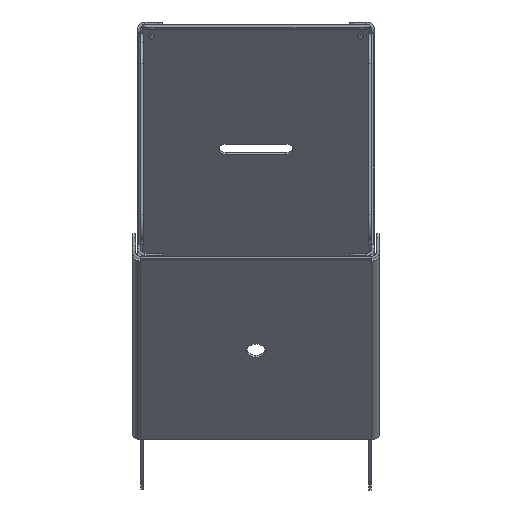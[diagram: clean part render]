
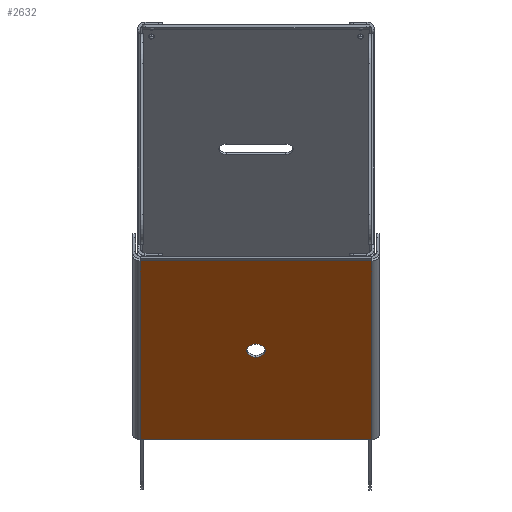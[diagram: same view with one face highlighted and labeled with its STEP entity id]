
A CAD part, left-side view. The second image highlights one B-rep face of the part: STEP entity #2632.
In plain terms, the highlighted planar face has unit normal (-0.707, 0, -0.707) as drawn and (-0.707, -0.707, 0) by its records, which use the part's own axes.
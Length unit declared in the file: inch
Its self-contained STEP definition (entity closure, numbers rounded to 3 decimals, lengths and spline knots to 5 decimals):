
#2334 = EDGE_CURVE ( 'NONE', #2443, #2335, #5176, .T. ) ;
#2335 = VERTEX_POINT ( 'NONE', #5223 ) ;
#2416 = EDGE_CURVE ( 'NONE', #2713, #2417, #5399, .T. ) ;
#2417 = VERTEX_POINT ( 'NONE', #5380 ) ;
#2418 = ORIENTED_EDGE ( 'NONE', *, *, #2582, .F. ) ;
#2419 = VERTEX_POINT ( 'NONE', #5373 ) ;
#2443 = VERTEX_POINT ( 'NONE', #5382 ) ;
#2448 = VERTEX_POINT ( 'NONE', #5374 ) ;
#2456 = EDGE_CURVE ( 'NONE', #2504, #2448, #5404, .T. ) ;
#2484 = VERTEX_POINT ( 'NONE', #5366 ) ;
#2504 = VERTEX_POINT ( 'NONE', #5520 ) ;
#2543 = EDGE_LOOP ( 'NONE', ( #2603, #2669, #2418, #2583, #2585, #2586 ) ) ;
#2582 = EDGE_CURVE ( 'NONE', #2419, #2417, #5681, .T. ) ;
#2583 = ORIENTED_EDGE ( 'NONE', *, *, #2584, .T. ) ;
#2584 = EDGE_CURVE ( 'NONE', #2419, #2448, #5640, .T. ) ;
#2585 = ORIENTED_EDGE ( 'NONE', *, *, #2456, .F. ) ;
#2586 = ORIENTED_EDGE ( 'NONE', *, *, #2587, .T. ) ;
#2587 = EDGE_CURVE ( 'NONE', #2504, #2484, #5664, .T. ) ;
#2601 = EDGE_CURVE ( 'NONE', #2484, #2713, #5615, .T. ) ;
#2603 = ORIENTED_EDGE ( 'NONE', *, *, #2601, .T. ) ;
#2632 = ADVANCED_FACE ( 'NONE', ( #5711, #5705 ), #5704, .F. ) ;
#2667 = ORIENTED_EDGE ( 'NONE', *, *, #2683, .F. ) ;
#2668 = ORIENTED_EDGE ( 'NONE', *, *, #2334, .F. ) ;
#2669 = ORIENTED_EDGE ( 'NONE', *, *, #2416, .T. ) ;
#2683 = EDGE_CURVE ( 'NONE', #2335, #2443, #5769, .T. ) ;
#2712 = EDGE_LOOP ( 'NONE', ( #2667, #2668 ) ) ;
#2713 = VERTEX_POINT ( 'NONE', #5741 ) ;
#5098 = DIRECTION ( 'NONE',  ( 0.707, -0.707, 0. ) ) ;
#5102 = DIRECTION ( 'NONE',  ( -0.707, -0.707, 0. ) ) ;
#5103 = CARTESIAN_POINT ( 'NONE',  ( 5.86366, -5.5464, 0. ) ) ;
#5175 = AXIS2_PLACEMENT_3D ( 'NONE', #5103, #5102, #5098 ) ;
#5176 = CIRCLE ( 'NONE', #5175, 0.156 ) ;
#5223 = CARTESIAN_POINT ( 'NONE',  ( 5.97397, -5.65671, 0. ) ) ;
#5366 = CARTESIAN_POINT ( 'NONE',  ( 4.3379, -4.02065, -1.95425 ) ) ;
#5372 = DIRECTION ( 'NONE',  ( 0.707, -0.707, 0. ) ) ;
#5373 = CARTESIAN_POINT ( 'NONE',  ( 7.36626, -7.04901, 1.95425 ) ) ;
#5374 = CARTESIAN_POINT ( 'NONE',  ( 4.34897, -4.03171, 1.95425 ) ) ;
#5380 = CARTESIAN_POINT ( 'NONE',  ( 7.36626, -7.04901, -1.95425 ) ) ;
#5382 = CARTESIAN_POINT ( 'NONE',  ( 5.75335, -5.4361, 0. ) ) ;
#5399 = LINE ( 'NONE', #5425, #5400 ) ;
#5400 = VECTOR ( 'NONE', #5372, 39.37008 ) ;
#5401 = DIRECTION ( 'NONE',  ( 0.707, -0.707, 0. ) ) ;
#5402 = VECTOR ( 'NONE', #5401, 39.37008 ) ;
#5403 = CARTESIAN_POINT ( 'NONE',  ( 4.30106, -3.9838, 1.95425 ) ) ;
#5404 = LINE ( 'NONE', #5403, #5402 ) ;
#5425 = CARTESIAN_POINT ( 'NONE',  ( 4.34897, -4.03171, -1.95425 ) ) ;
#5520 = CARTESIAN_POINT ( 'NONE',  ( 4.3379, -4.02065, 1.95425 ) ) ;
#5580 = DIRECTION ( 'NONE',  ( 0., 0., -1. ) ) ;
#5612 = DIRECTION ( 'NONE',  ( 0.707, -0.707, 0. ) ) ;
#5613 = VECTOR ( 'NONE', #5612, 39.37008 ) ;
#5614 = CARTESIAN_POINT ( 'NONE',  ( 4.30106, -3.9838, -1.95425 ) ) ;
#5615 = LINE ( 'NONE', #5614, #5613 ) ;
#5637 = DIRECTION ( 'NONE',  ( -0.707, 0.707, 0. ) ) ;
#5638 = VECTOR ( 'NONE', #5637, 39.37008 ) ;
#5639 = CARTESIAN_POINT ( 'NONE',  ( 7.36626, -7.04901, 1.95425 ) ) ;
#5640 = LINE ( 'NONE', #5639, #5638 ) ;
#5659 = VECTOR ( 'NONE', #5580, 39.37008 ) ;
#5661 = DIRECTION ( 'NONE',  ( 0., 0., -1. ) ) ;
#5662 = VECTOR ( 'NONE', #5661, 39.37008 ) ;
#5663 = CARTESIAN_POINT ( 'NONE',  ( 4.3379, -4.02065, 1.95425 ) ) ;
#5664 = LINE ( 'NONE', #5663, #5662 ) ;
#5680 = CARTESIAN_POINT ( 'NONE',  ( 7.36626, -7.04901, 1.95425 ) ) ;
#5681 = LINE ( 'NONE', #5680, #5659 ) ;
#5700 = DIRECTION ( 'NONE',  ( -0.707, 0.707, 0. ) ) ;
#5701 = DIRECTION ( 'NONE',  ( 0.707, 0.707, 0. ) ) ;
#5702 = CARTESIAN_POINT ( 'NONE',  ( 4.30106, -3.9838, 1.95425 ) ) ;
#5703 = AXIS2_PLACEMENT_3D ( 'NONE', #5702, #5701, #5700 ) ;
#5704 = PLANE ( 'NONE',  #5703 ) ;
#5705 = FACE_OUTER_BOUND ( 'NONE', #2543, .T. ) ;
#5711 = FACE_BOUND ( 'NONE', #2712, .T. ) ;
#5741 = CARTESIAN_POINT ( 'NONE',  ( 4.34897, -4.03171, -1.95425 ) ) ;
#5766 = DIRECTION ( 'NONE',  ( 0.707, -0.707, 0. ) ) ;
#5767 = DIRECTION ( 'NONE',  ( -0.707, -0.707, 0. ) ) ;
#5768 = AXIS2_PLACEMENT_3D ( 'NONE', #5801, #5767, #5766 ) ;
#5769 = CIRCLE ( 'NONE', #5768, 0.156 ) ;
#5801 = CARTESIAN_POINT ( 'NONE',  ( 5.86366, -5.5464, 0. ) ) ;
